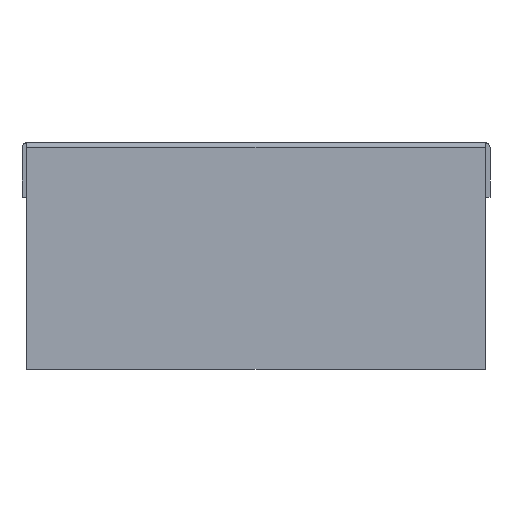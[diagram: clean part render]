
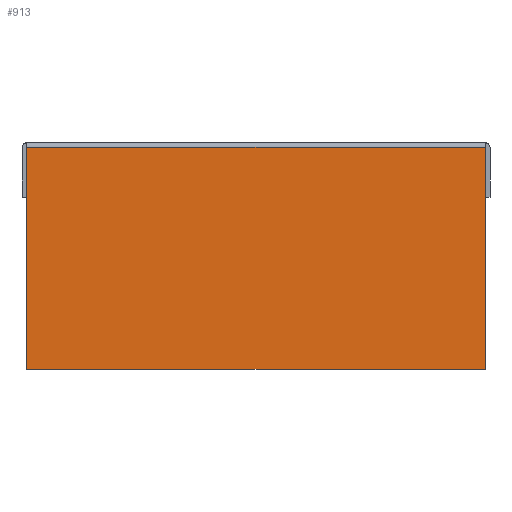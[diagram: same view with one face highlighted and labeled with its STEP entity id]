
A CAD part, front view. The second image highlights one B-rep face of the part: STEP entity #913.
In plain terms, the highlighted planar face has unit normal (0, -1, 0).
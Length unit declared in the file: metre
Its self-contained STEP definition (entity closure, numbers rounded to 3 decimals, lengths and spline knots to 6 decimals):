
#206=ORIENTED_EDGE('',*,*,#385,.T.);
#207=ORIENTED_EDGE('',*,*,#391,.T.);
#208=ORIENTED_EDGE('',*,*,#340,.F.);
#209=ORIENTED_EDGE('',*,*,#319,.F.);
#319=EDGE_CURVE('',#443,#444,#527,.F.);
#340=EDGE_CURVE('',#444,#461,#542,.F.);
#385=EDGE_CURVE('',#443,#489,#565,.F.);
#391=EDGE_CURVE('',#489,#461,#571,.T.);
#443=VERTEX_POINT('',#1348);
#444=VERTEX_POINT('',#1350);
#461=VERTEX_POINT('',#1392);
#489=VERTEX_POINT('',#1483);
#527=LINE('',#1349,#623);
#542=LINE('',#1391,#638);
#565=LINE('',#1484,#661);
#571=LINE('',#1493,#667);
#623=VECTOR('',#1078,1.);
#638=VECTOR('',#1113,1.);
#661=VECTOR('',#1218,1.);
#667=VECTOR('',#1230,1.);
#753=EDGE_LOOP('',(#206,#207,#208,#209));
#823=FACE_BOUND('',#753,.T.);
#865=PLANE('',#1030);
#913=ADVANCED_FACE('',(#823),#865,.T.);
#1030=AXIS2_PLACEMENT_3D('',#1492,#1228,#1229);
#1078=DIRECTION('',(1.,0.,0.));
#1113=DIRECTION('',(0.,0.,-1.));
#1218=DIRECTION('',(0.,0.,-1.));
#1228=DIRECTION('',(0.,-1.,0.));
#1229=DIRECTION('',(0.,0.,-1.));
#1230=DIRECTION('',(-1.,0.,0.));
#1348=CARTESIAN_POINT('',(0.1,0.0012,-0.1));
#1349=CARTESIAN_POINT('',(0.1,0.0012,-0.1));
#1350=CARTESIAN_POINT('',(-0.1,0.0012,-0.1));
#1391=CARTESIAN_POINT('',(-0.1,0.0012,0.));
#1392=CARTESIAN_POINT('',(-0.1,0.0012,-0.0032));
#1483=CARTESIAN_POINT('',(0.1,0.0012,-0.0032));
#1484=CARTESIAN_POINT('',(0.1,0.0012,0.));
#1492=CARTESIAN_POINT('',(0.1,0.0012,0.));
#1493=CARTESIAN_POINT('',(0.1,0.0012,-0.0032));
